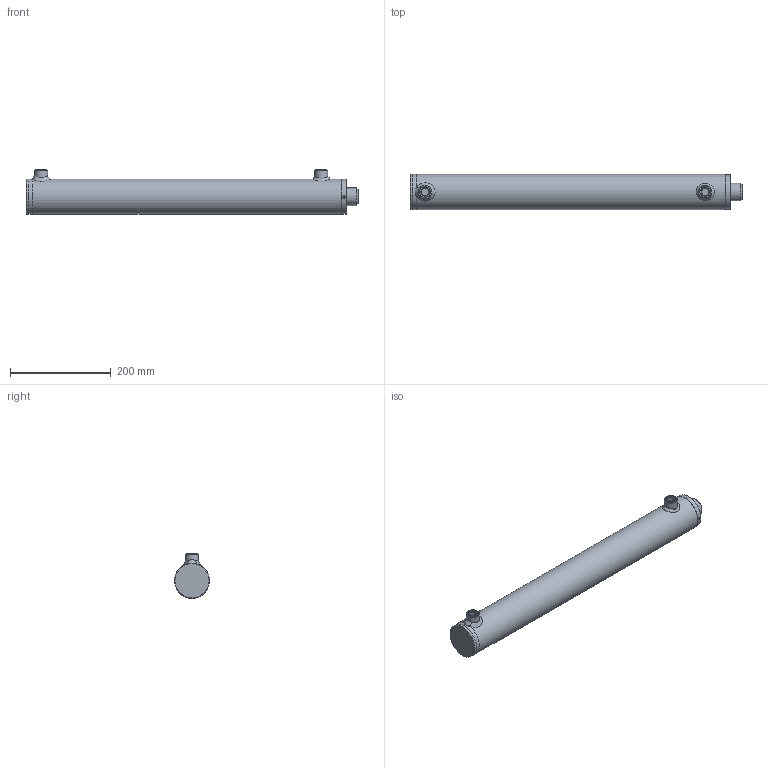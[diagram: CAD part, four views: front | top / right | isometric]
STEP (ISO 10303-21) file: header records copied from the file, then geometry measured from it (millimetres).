
FILE_DESCRIPTION( ( 'Unknown' ), '1' );
FILE_NAME( 'E:/LIBRERIA_3d/CILINDRI/HM0/HM03350500.stp', 'Unknown', ( 'Unknown' ), ( 'Unknown' ), 'PSStep 17.0.49', 'Unknown', ' ' );
FILE_SCHEMA( ( 'AUTOMOTIVE_DESIGN { 1 0 10303 214 1 1 1 1 }' ) );
Length unit declared in the file: millimetre
Products named in the file (18): CT00060020; STL3500500-oa4; Saldatura d'angolo 1-oa2; CBS0600000; FTM3500500-oa3; CG07006035; Assem1; Saldatura con preparazione 1-oa0; Saldatura d'angolo 1-oa1; CF00060070; CDA0002015; APG0600000; SBL3530500
Assembly tree (15 placements, depth 3):
  Saldatura d'angolo 1-oa2
  Saldatura d'angolo 1-oa2
  Assem1
    Saldatura con preparazione 1-oa0
    Saldatura con preparazione 1-oa0
    CF00060070
    CBS0600000
    CDA0002015
    APG0600000  x2
    SBL3530500
    CT00060020
      CT00060020
    STL3500500-oa4
      CBS0600000
      FTM3500500-oa3
    CG07006035
      CG07006035
  Saldatura d'angolo 1-oa1
  Saldatura d'angolo 1-oa1
Bounding box: 660 x 70 x 89 mm (x, y, z)
Volume: 1463212.5 mm3; surface area: 404508.5 mm2
Topology: 16 solids, 16 shells, 201 faces, 407 edges, 251 vertices
Faces by surface type: plane 58, cylinder 55, torus 38, cone 32, bspline 18
Full cylindrical faces by diameter (mm): 4.25 x1, 5 x2, 6 x2, 7 x2, 14.95 x2, 16 x2, 16.6 x2, 19.4 x1, 20 x5, 22 x2, 24.5 x1, 26 x2, 30 x1, 35 x4, 37 x1, 38 x1, 43.6 x1, 44 x1, 45 x1, 55 x1, 55.39 x2, 58.65 x2, 59.9 x1, 60 x1, 60.3 x1, 60.5 x1, 60.6 x1, 61 x1, 62 x3, 62.376 x1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
Entity records: 8646 total; most frequent: CARTESIAN_POINT 3936, DIRECTION 710, ORIENTED_EDGE 432, AXIS2_PLACEMENT_3D 343, EDGE_LOOP 342, FACE_OUTER_BOUND 276, EDGE_CURVE 216, VERTEX_POINT 195
